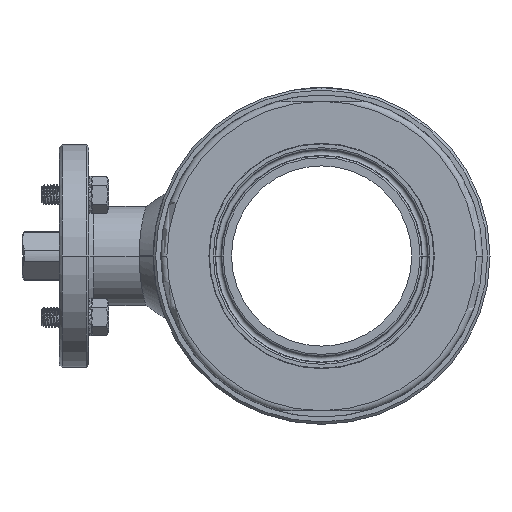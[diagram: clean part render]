
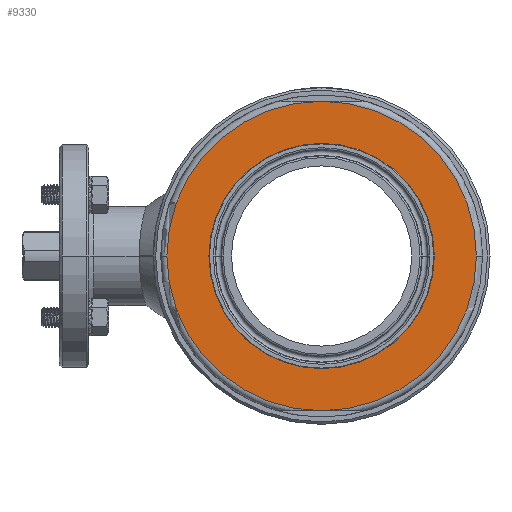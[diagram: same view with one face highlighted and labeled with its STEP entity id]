
A CAD part, left-side view. The second image highlights one B-rep face of the part: STEP entity #9330.
In plain terms, the highlighted planar face has unit normal (-1, 0, 0).
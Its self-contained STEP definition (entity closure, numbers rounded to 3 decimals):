
#8689=CARTESIAN_POINT('',(-65.,0.,0.));
#8690=DIRECTION('',(-1.,0.,0.));
#8691=DIRECTION('',(0.,1.,0.));
#8692=AXIS2_PLACEMENT_3D('',#8689,#8690,#8691);
#8709=CARTESIAN_POINT('',(-65.,0.,0.));
#8710=DIRECTION('',(-1.,0.,0.));
#8711=DIRECTION('',(0.,-1.,0.));
#8712=AXIS2_PLACEMENT_3D('',#8709,#8710,#8711);
#8995=CARTESIAN_POINT('',(-65.,0.,0.));
#8996=DIRECTION('',(-1.,0.,0.));
#8997=DIRECTION('',(0.,0.,-1.));
#8998=AXIS2_PLACEMENT_3D('',#8995,#8996,#8997);
#9037=CARTESIAN_POINT('',(-65.,0.,0.));
#9038=DIRECTION('',(-1.,0.,0.));
#9039=DIRECTION('',(0.,-1.,0.));
#9040=AXIS2_PLACEMENT_3D('',#9037,#9038,#9039);
#9082=CARTESIAN_POINT('',(-65.,0.,0.));
#9083=DIRECTION('',(-1.,0.,0.));
#9084=DIRECTION('',(0.,0.,1.));
#9085=AXIS2_PLACEMENT_3D('',#9082,#9083,#9084);
#9119=CARTESIAN_POINT('',(-65.,0.,0.));
#9120=DIRECTION('',(-1.,0.,0.));
#9121=DIRECTION('',(0.,1.,0.));
#9122=AXIS2_PLACEMENT_3D('',#9119,#9120,#9121);
#9209=CARTESIAN_POINT('',(-65.,-43.25,0.));
#9210=CARTESIAN_POINT('',(-65.,43.25,0.));
#9211=VERTEX_POINT('',#9209);
#9212=VERTEX_POINT('',#9210);
#9273=CARTESIAN_POINT('',(-65.,0.,62.5));
#9274=CARTESIAN_POINT('',(-65.,62.5,0.));
#9275=VERTEX_POINT('',#9273);
#9276=VERTEX_POINT('',#9274);
#9281=CARTESIAN_POINT('',(-65.,0.,-62.5));
#9282=VERTEX_POINT('',#9281);
#9285=CARTESIAN_POINT('',(-65.,-62.5,0.));
#9286=VERTEX_POINT('',#9285);
#9309=CARTESIAN_POINT('',(-65.,0.,0.));
#9310=DIRECTION('',(-1.,0.,0.));
#9311=DIRECTION('',(0.,1.,0.));
#9312=AXIS2_PLACEMENT_3D('',#9309,#9310,#9311);
#9313=PLANE('',#9312);
#9315=ORIENTED_EDGE('',*,*,#9314,.F.);
#9317=ORIENTED_EDGE('',*,*,#9316,.F.);
#9319=ORIENTED_EDGE('',*,*,#9318,.F.);
#9321=ORIENTED_EDGE('',*,*,#9320,.F.);
#9322=EDGE_LOOP('',(#9315,#9317,#9319,#9321));
#9323=FACE_OUTER_BOUND('',#9322,.F.);
#9325=ORIENTED_EDGE('',*,*,#9324,.T.);
#9327=ORIENTED_EDGE('',*,*,#9326,.T.);
#9328=EDGE_LOOP('',(#9325,#9327));
#9329=FACE_BOUND('',#9328,.F.);
#8693=CIRCLE('',#8692,43.25);
#8713=CIRCLE('',#8712,43.25);
#8999=CIRCLE('',#8998,62.5);
#9041=CIRCLE('',#9040,62.5);
#9086=CIRCLE('',#9085,62.5);
#9123=CIRCLE('',#9122,62.5);
#9314=EDGE_CURVE('',#9282,#9286,#8999,.T.);
#9316=EDGE_CURVE('',#9276,#9282,#9123,.T.);
#9318=EDGE_CURVE('',#9275,#9276,#9086,.T.);
#9320=EDGE_CURVE('',#9286,#9275,#9041,.T.);
#9324=EDGE_CURVE('',#9212,#9211,#8693,.T.);
#9326=EDGE_CURVE('',#9211,#9212,#8713,.T.);
#9330=ADVANCED_FACE('',(#9323,#9329),#9313,.T.);
